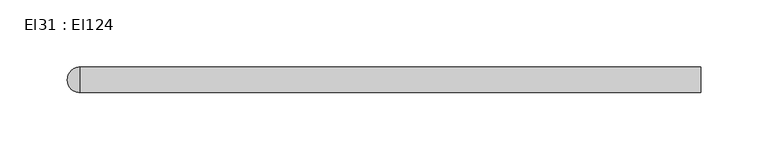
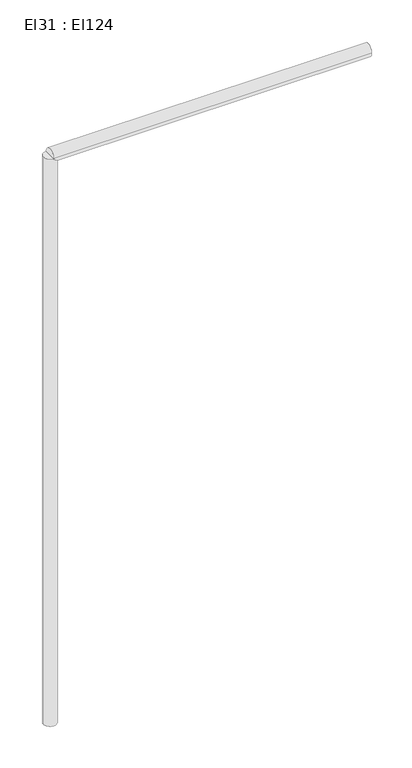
"""IFC4 building model written with IfcOpenShell, lengths in millimetres: cable carrier segment geometry, El31 : El124."""

import ifcopenshell
import ifcopenshell.guid

model = None  # the IFC model being written
_history = None  # IfcOwnerHistory: only IFC2X3 demands one
_inside = {}  # id of a spatial element -> (the spatial element, [elements in it])
_under = {}  # id of a project, library or spatial element -> (it, [spatial elements below it])
_declared = {}  # id of a project -> (the project, [libraries it declares])
_typed = {}  # id of a type object -> (the type object, [elements of that type])
_made_of = {}  # id of a material, layer set ... -> (it, [elements and type objects made of it])


def new_model(schema):
    """Start an empty IFC model of exactly this schema.

    Asked for "IFC4X3", IfcOpenShell would pick the latest addendum, in which some entities
    have other attributes; the version numbers below select the first issue.
    IFC2X3 requires an IfcOwnerHistory on every rooted entity: one is made here for all.
    """
    global model, _history
    if schema == "IFC4X3":
        model = ifcopenshell.file(schema_version=(4, 3, 0, 0))
    else:
        model = ifcopenshell.file(schema=schema)
    _inside.clear()
    _under.clear()
    _declared.clear()
    _typed.clear()
    _made_of.clear()
    _history = None
    if model.schema == "IFC2X3":
        org = make("IfcOrganization", Name="unknown")
        user = make(
            "IfcPersonAndOrganization",
            ThePerson=make("IfcPerson", FamilyName="unknown"),
            TheOrganization=org,
        )
        app = make(
            "IfcApplication",
            ApplicationDeveloper=org,
            Version="unknown",
            ApplicationFullName="unknown",
            ApplicationIdentifier="unknown",
        )
        _history = make(
            "IfcOwnerHistory",
            OwningUser=user,
            OwningApplication=app,
            ChangeAction="ADDED",
            CreationDate=0,
        )
    return model


def make(cls, **values):
    """One entity of the class cls with the attributes given. An attribute that is None is left unset."""
    return model.create_entity(
        cls, **{name: value for name, value in values.items() if value is not None}
    )


def rooted(cls, **values):
    """An entity with a GlobalId (a new one), such as an element, a storey or a relation."""
    return make(cls, GlobalId=ifcopenshell.guid.new(), OwnerHistory=_history, **values)


def si_unit(unit_type, name, prefix=None):
    """IfcSIUnit, for example si_unit("LENGTHUNIT", "METRE", prefix="MILLI")."""
    return make("IfcSIUnit", UnitType=unit_type, Prefix=prefix, Name=name)


def assignment(units):
    """IfcUnitAssignment: the units of a project."""
    return None if units is None else make("IfcUnitAssignment", Units=units)


def point(xyz):
    """IfcCartesianPoint."""
    return None if xyz is None else make("IfcCartesianPoint", Coordinates=xyz)


def direction(xyz):
    """IfcDirection."""
    return None if xyz is None else make("IfcDirection", DirectionRatios=xyz)


def frame(location, z_axis=None, x_axis=None):
    """IfcAxis2Placement3D, a coordinate frame: its origin and axes. An axis left out is left unset."""
    return make(
        "IfcAxis2Placement3D",
        Location=point(location),
        Axis=direction(z_axis),
        RefDirection=direction(x_axis),
    )


def frame_2d(location, x_axis=None):
    """IfcAxis2Placement2D, a coordinate frame in the plane: its origin and x axis."""
    return make(
        "IfcAxis2Placement2D", Location=point(location), RefDirection=direction(x_axis)
    )


def origin():
    """The frame at (0, 0, 0) with its axes left unset."""
    return frame((0.0, 0.0, 0.0))


def place(relative_to, where):
    """IfcLocalPlacement: puts the frame where relative to a parent placement (None: the world)."""
    return make(
        "IfcLocalPlacement", PlacementRelTo=relative_to, RelativePlacement=where
    )


def context(
    kind, dimensions, precision=None, world=None, true_north=None, identifier=None
):
    """IfcGeometricRepresentationContext, for example the 3D "Model" context."""
    return make(
        "IfcGeometricRepresentationContext",
        ContextIdentifier=identifier,
        ContextType=kind,
        CoordinateSpaceDimension=dimensions,
        Precision=precision,
        WorldCoordinateSystem=world,
        TrueNorth=true_north,
    )


def project(units=None, contexts=None):
    """IfcProject with its units and contexts."""
    return rooted(
        "IfcProject",
        Name="project",
        RepresentationContexts=contexts,
        UnitsInContext=assignment(units),
    )


def spatial(cls, under=None, at=None, **own):
    """A site, building, storey or space (cls), placed at a placement, below another one or the project."""
    s = rooted(cls, ObjectPlacement=at, **own)
    if under is not None:
        _under.setdefault(under.id(), (under, []))[1].append(s)
    return s


def circle_curve(where, radius):
    """IfcCircle in the frame where."""
    return make("IfcCircle", Position=where, Radius=radius)


def trimmed(basis, trim1, trim2, sense, master):
    """IfcTrimmedCurve: the piece of a basis curve between two trims."""
    return make(
        "IfcTrimmedCurve",
        BasisCurve=basis,
        Trim1=trim1,
        Trim2=trim2,
        SenseAgreement=sense,
        MasterRepresentation=master,
    )


def segment(curve, same_sense, transition):
    """IfcCompositeCurveSegment."""
    return make(
        "IfcCompositeCurveSegment",
        Transition=transition,
        SameSense=same_sense,
        ParentCurve=curve,
    )


def composite_curve(segments, self_intersect=None):
    """IfcCompositeCurve: segments joined end to end."""
    return make("IfcCompositeCurve", Segments=segments, SelfIntersect=self_intersect)


def outline(outer, holes=None, kind="AREA"):
    """IfcArbitraryClosedProfileDef: a profile drawn as a closed curve; with holes, ...WithVoids."""
    if holes is None:
        return make("IfcArbitraryClosedProfileDef", ProfileType=kind, OuterCurve=outer)
    return make(
        "IfcArbitraryProfileDefWithVoids",
        ProfileType=kind,
        OuterCurve=outer,
        InnerCurves=holes,
    )


def extrude(swept, where, along, depth):
    """IfcExtrudedAreaSolid: the profile swept, set in the frame where, extruded along a direction by depth."""
    return make(
        "IfcExtrudedAreaSolid",
        SweptArea=swept,
        Position=where,
        ExtrudedDirection=direction(along),
        Depth=depth,
    )


def shape(context_of_items, identifier, shape_type, items):
    """IfcShapeRepresentation: the items that make up one representation, for example the "Body"."""
    return make(
        "IfcShapeRepresentation",
        ContextOfItems=context_of_items,
        RepresentationIdentifier=identifier,
        RepresentationType=shape_type,
        Items=items,
    )


def source(mapping_origin, context_of_items, identifier, shape_type, items):
    """IfcRepresentationMap: a shape defined once, which mapped items show again and again."""
    return make(
        "IfcRepresentationMap",
        MappingOrigin=mapping_origin,
        MappedRepresentation=shape(context_of_items, identifier, shape_type, items),
    )


def transform(
    local_origin,
    x_axis=None,
    y_axis=None,
    z_axis=None,
    scale=None,
    scale2=None,
    scale3=None,
    uniform=True,
):
    """IfcCartesianTransformationOperator3D, or its non-uniform kind. x_axis, y_axis, z_axis: its Axis1, 2, 3."""
    if uniform:
        return make(
            "IfcCartesianTransformationOperator3D",
            Axis1=direction(x_axis),
            Axis2=direction(y_axis),
            LocalOrigin=point(local_origin),
            Scale=scale,
            Axis3=direction(z_axis),
        )
    return make(
        "IfcCartesianTransformationOperator3DnonUniform",
        Axis1=direction(x_axis),
        Axis2=direction(y_axis),
        LocalOrigin=point(local_origin),
        Scale=scale,
        Axis3=direction(z_axis),
        Scale2=scale2,
        Scale3=scale3,
    )


def mapped(mapping_source, mapping_target):
    """IfcMappedItem: shows the shape of a source again, moved by a transform."""
    return make(
        "IfcMappedItem", MappingSource=mapping_source, MappingTarget=mapping_target
    )


def made_of(thing, what):
    """Note that an element or type object is made of a material, layer set ...; save() writes the relation."""
    if what is not None:
        _made_of.setdefault(what.id(), (what, []))[1].append(thing)
    return thing


def element(
    cls,
    number,
    at=None,
    inside=None,
    cuts=None,
    type_object=None,
    material=None,
    context=None,
    identifier="Body",
    shape_type=None,
    held_by="IfcProductDefinitionShape",
    body=None,
    shapes=None,
    **own,
):
    """One element of the class cls, such as IfcWall. Its Tag is "e" and its number.

    at: its placement. inside: the storey or other place that contains it. cuts: it is an
    opening in that element (IfcRelVoidsElement). A single representation is given by context,
    identifier, shape_type and body (its items); several are given by shapes. held_by: the class
    of the entity that holds the representations. save() writes the other relations.
    """
    e = rooted(cls, Tag="e%d" % number, ObjectPlacement=at, **own)
    if body is not None:
        shapes = [shape(context, identifier, shape_type, body)]
    if shapes is not None:
        e.Representation = make(held_by, Representations=shapes)
    if inside is not None:
        _inside.setdefault(inside.id(), (inside, []))[1].append(e)
    if cuts is not None:
        rooted(
            "IfcRelVoidsElement", RelatingBuildingElement=cuts, RelatedOpeningElement=e
        )
    if type_object is not None:
        _typed.setdefault(type_object.id(), (type_object, []))[1].append(e)
    return made_of(e, material)


def aggregate(whole, parts):
    """IfcRelAggregates: a whole, such as a stair, and the parts it consists of."""
    return rooted("IfcRelAggregates", RelatingObject=whole, RelatedObjects=parts)


def save(model, path):
    """Write the relations noted so far, then the file.

    IfcRelAggregates (storeys below a building ...), IfcRelContainedInSpatialStructure (elements
    in a storey), IfcRelDefinesByType, IfcRelAssociatesMaterial and IfcRelDeclares: one each for
    every whole, place, type object, material and project.
    """
    for whole, parts in _under.values():
        aggregate(whole, parts)
    for where, things in _inside.values():
        rooted(
            "IfcRelContainedInSpatialStructure",
            RelatedElements=things,
            RelatingStructure=where,
        )
    for kind, things in _typed.values():
        rooted("IfcRelDefinesByType", RelatedObjects=things, RelatingType=kind)
    for what, things in _made_of.values():
        rooted("IfcRelAssociatesMaterial", RelatedObjects=things, RelatingMaterial=what)
    for by, libraries in _declared.values():
        rooted("IfcRelDeclares", RelatingContext=by, RelatedDefinitions=libraries)
    model.write(path)


def el31_el124_8efc11f5(model_context):
    return source(origin(), model_context, "Body", "SweptSolid", [
        extrude(outline(composite_curve([segment(trimmed(circle_curve(frame_2d((4566.0121745, 2700.0)), 9.5), [point((4556.5121745, 2700.0))], [point((4575.5121745, 2700.0))], False, "CARTESIAN"), True, "CONTINUOUS"), segment(trimmed(circle_curve(frame_2d((4566.0121745, 2700.0)), 9.5), [point((4575.5121745, 2700.0))], [point((4556.5121745, 2700.0))], False, "CARTESIAN"), True, "CONTINUOUS")], self_intersect=False)), frame((28704.5826511, 0.0, 0.0), z_axis=(1.0, 0.0, 0.0), x_axis=(0.0, 1.0, 0.0)), (0.0, 0.0, 1.0), 461.483),
        extrude(outline(composite_curve([segment(trimmed(circle_curve(frame_2d((28704.5826511, 4566.0121745)), 9.5), [point((28695.0826511, 4566.0121745))], [point((28714.0826511, 4566.0121745))], False, "CARTESIAN"), True, "CONTINUOUS"), segment(trimmed(circle_curve(frame_2d((28704.5826511, 4566.0121745)), 9.5), [point((28714.0826511, 4566.0121745))], [point((28695.0826511, 4566.0121745))], False, "CARTESIAN"), True, "CONTINUOUS")], self_intersect=False)), frame((0.0, 0.0, 1830.0), z_axis=(0.0, 0.0, 1.0), x_axis=(1.0, 0.0, 0.0)), (0.0, 0.0, 1.0), 870.0),
    ])


if __name__ == "__main__":
    model = new_model("IFC4")
    model_context = context("Model", 3, world=origin())
    ifc_project = project(units=[si_unit("LENGTHUNIT", "METRE", prefix="MILLI")], contexts=[model_context])
    site = spatial("IfcSite", under=ifc_project)
    building = spatial("IfcBuilding", under=site)
    placement = place(None, origin())
    el31_el124_shape = el31_el124_8efc11f5(model_context)
    element("IfcCableCarrierSegment", 1, ObjectType="El31 : El124", at=placement, inside=building, context=model_context, shape_type="MappedRepresentation", body=[
        mapped(el31_el124_shape, transform((0.0, 0.0, 0.0), x_axis=(1.0, 0.0, 0.0), y_axis=(0.0, 1.0, 0.0), z_axis=(0.0, 0.0, 1.0))),
    ])
    save(model, "model.ifc")
